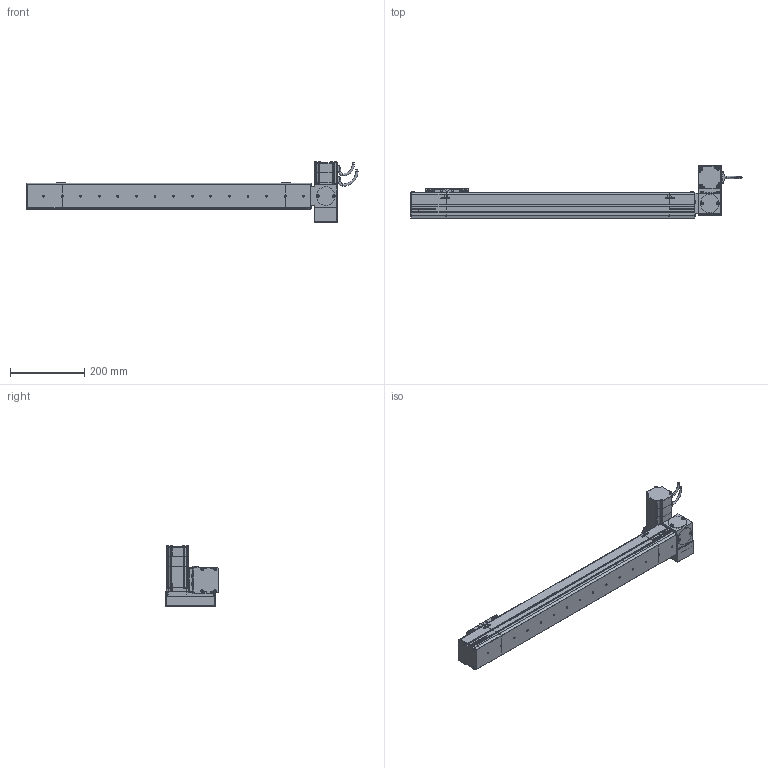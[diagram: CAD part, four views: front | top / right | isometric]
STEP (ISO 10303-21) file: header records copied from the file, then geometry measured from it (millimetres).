
FILE_DESCRIPTION (( 'STEP AP214' ), '1' );
FILE_NAME ('S07 CBN RT S600.STEP', '2010-06-29T09:48:15', ( 'Conseil Régional Haute-Normandie' ), ( 'Conseil Régional Haute-Normandie' ), 'SwSTEP 2.0', 'SolidWorks 2010', '' );
FILE_SCHEMA (( 'AUTOMOTIVE_DESIGN' ));
Length unit declared in the file: millimetre
Products named in the file (31): Couvercle RT_Default; Rondelle de Serrage RT_Default; support chariot_Default; plaque de serrage RT_Default; Plaque de bout RT_Default; plaque de serrage Tail_Default; Plaque de bout Tail_Default; Couvercle Tail_Default; chariot_Default; Chariot S07_Default; vis M5 L15_Default; Corp Tail_Default; Tail S07 Tail_Default; Couvercle S07 S600_Default; Corp S07 S600_Default; Support Moteur RT_Default; P1_Default; VisM3_Default; Cache Support Moteur RT_Default; Conecteur2 60BLDC_Default; 60BLDC90A-640_Default; Conecteur 60BLDC_Default; vis M5 L8_Default; Axe 60BLDC_Default; P4_Default; P3 90A_Default; P2 90A_Default; Corp RT_Default; Head RT_Default; S07 CBN RT S600
Assembly tree (71 placements, depth 4):
  S07 CBN RT S600
    Chariot S07_Default
      vis M5 L8_Default  x8
      support chariot_Default
      chariot_Default
    Tail S07 Tail_Default
      Corp Tail_Default
      vis M5 L15_Default  x6
      plaque de serrage Tail_Default
      Plaque de bout Tail_Default
      Couvercle Tail_Default
    Head RT_Default
      Rondelle de Serrage RT_Default  x3
      60BLDC90A-640_Default
        VisM3_Default  x12
        Conecteur2 60BLDC_Default
        P3 90A_Default
        Axe 60BLDC_Default
        P2 90A_Default
        P1_Default
        Conecteur 60BLDC_Default
        P4_Default
      vis M5 L15_Default  x16
      Plaque de bout RT_Default
      Cache Support Moteur RT_Default
      Couvercle RT_Default
      plaque de serrage RT_Default
      Support Moteur RT_Default
      Corp RT_Default
    Corp S07 S600_Default
      Corp S07 S600_Default
      Couvercle S07 S600_Default
Bounding box: 893.2 x 141 x 162 mm (x, y, z)
Volume: 4262648.9 mm3; surface area: 592241.4 mm2
Topology: 108 solids, 108 shells, 3886 faces, 9578 edges, 6164 vertices
Faces by surface type: plane 2248, bspline 756, cylinder 671, torus 112, cone 95, sphere 4
Entity records: 153193 total; most frequent: CARTESIAN_POINT 79565, ORIENTED_EDGE 14676, DIRECTION 10931, EDGE_CURVE 7338, VERTEX_POINT 4849, VECTOR 4769, LINE 4769, EDGE_LOOP 3141
